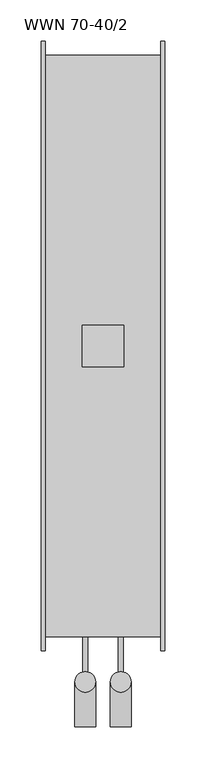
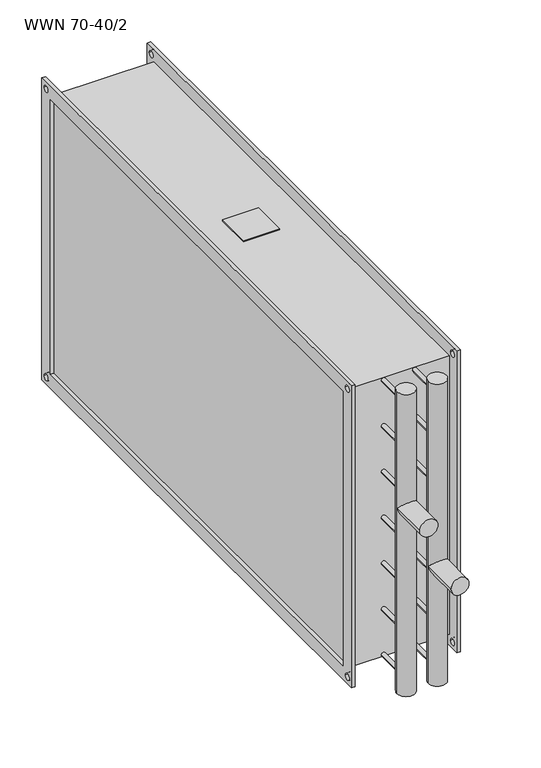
"""IFC4 building model written with IfcOpenShell, lengths in millimetres: proxy geometry, KORF_Нагреватель_Водяной_WWN : WWN 70-40/2."""

from ifc_helpers import new_model, si_unit, point, frame, frame_2d, origin, place, context, project, spatial, polyline, circle_curve, ellipse_curve, trimmed, segment, composite_curve, outline, extrude, source, transform, mapped, element, save
from ifc_brep_helpers import plane_surface, cylinder_surface, advanced_brep


def wwn_70_40_2_35d09b2a(model_context):
    return source(origin(), model_context, "Body", "SolidModel", [
        extrude(outline(polyline([(50.0, -25.0), (50.0, 25.0), (100.0, 25.0), (100.0, -25.0), (50.0, -25.0)])), frame((0.0, 0.0, 203.0), z_axis=(0.0, 0.0, 1.0), x_axis=(1.0, 0.0, 0.0)), (0.0, 0.0, 1.0), 2.0),
        extrude(outline(polyline([(-370.0, 220.0), (370.0, 220.0), (370.0, -220.0), (-370.0, -220.0), (-370.0, 220.0)]), holes=[polyline([(-350.0, 200.0), (-350.0, -200.0), (350.0, -200.0), (350.0, 200.0), (-350.0, 200.0)]), composite_curve([segment(trimmed(circle_curve(frame_2d((360.0, 210.0)), 4.5), [point((355.5, 210.0))], [point((364.5, 210.0))], True, "CARTESIAN"), True, "CONTINUOUS"), segment(trimmed(circle_curve(frame_2d((360.0, 210.0)), 4.5), [point((364.5, 210.0))], [point((355.5, 210.0))], True, "CARTESIAN"), True, "CONTINUOUS")], self_intersect=False), composite_curve([segment(trimmed(circle_curve(frame_2d((-360.0, 210.0)), 4.5), [point((-364.5, 210.0))], [point((-355.5, 210.0))], True, "CARTESIAN"), True, "CONTINUOUS"), segment(trimmed(circle_curve(frame_2d((-360.0, 210.0)), 4.5), [point((-355.5, 210.0))], [point((-364.5, 210.0))], True, "CARTESIAN"), True, "CONTINUOUS")], self_intersect=False), composite_curve([segment(trimmed(circle_curve(frame_2d((-360.0, -210.0)), 4.5), [point((-364.5, -210.0))], [point((-355.5, -210.0))], True, "CARTESIAN"), True, "CONTINUOUS"), segment(trimmed(circle_curve(frame_2d((-360.0, -210.0)), 4.5), [point((-355.5, -210.0))], [point((-364.5, -210.0))], True, "CARTESIAN"), True, "CONTINUOUS")], self_intersect=False), composite_curve([segment(trimmed(circle_curve(frame_2d((360.0, -210.0)), 4.5), [point((355.5, -210.0))], [point((364.5, -210.0))], True, "CARTESIAN"), True, "CONTINUOUS"), segment(trimmed(circle_curve(frame_2d((360.0, -210.0)), 4.5), [point((364.5, -210.0))], [point((355.5, -210.0))], True, "CARTESIAN"), True, "CONTINUOUS")], self_intersect=False)]), frame((145.0, 0.0, 0.0), z_axis=(1.0, 0.0, 0.0), x_axis=(0.0, 1.0, 0.0)), (0.0, 0.0, 1.0), 5.0),
        extrude(outline(polyline([(-370.0, 220.0), (370.0, 220.0), (370.0, -220.0), (-370.0, -220.0), (-370.0, 220.0)]), holes=[polyline([(-350.0, 200.0), (-350.0, -200.0), (350.0, -200.0), (350.0, 200.0), (-350.0, 200.0)]), composite_curve([segment(trimmed(circle_curve(frame_2d((360.0, 210.0)), 4.5), [point((355.5, 210.0))], [point((364.5, 210.0))], True, "CARTESIAN"), True, "CONTINUOUS"), segment(trimmed(circle_curve(frame_2d((360.0, 210.0)), 4.5), [point((364.5, 210.0))], [point((355.5, 210.0))], True, "CARTESIAN"), True, "CONTINUOUS")], self_intersect=False), composite_curve([segment(trimmed(circle_curve(frame_2d((-360.0, 210.0)), 4.5), [point((-364.5, 210.0))], [point((-355.5, 210.0))], True, "CARTESIAN"), True, "CONTINUOUS"), segment(trimmed(circle_curve(frame_2d((-360.0, 210.0)), 4.5), [point((-355.5, 210.0))], [point((-364.5, 210.0))], True, "CARTESIAN"), True, "CONTINUOUS")], self_intersect=False), composite_curve([segment(trimmed(circle_curve(frame_2d((-360.0, -210.0)), 4.5), [point((-364.5, -210.0))], [point((-355.5, -210.0))], True, "CARTESIAN"), True, "CONTINUOUS"), segment(trimmed(circle_curve(frame_2d((-360.0, -210.0)), 4.5), [point((-355.5, -210.0))], [point((-364.5, -210.0))], True, "CARTESIAN"), True, "CONTINUOUS")], self_intersect=False), composite_curve([segment(trimmed(circle_curve(frame_2d((360.0, -210.0)), 4.5), [point((355.5, -210.0))], [point((364.5, -210.0))], True, "CARTESIAN"), True, "CONTINUOUS"), segment(trimmed(circle_curve(frame_2d((360.0, -210.0)), 4.5), [point((364.5, -210.0))], [point((355.5, -210.0))], True, "CARTESIAN"), True, "CONTINUOUS")], self_intersect=False)]), frame((0.0, 0.0, 0.0), z_axis=(1.0, 0.0, 0.0), x_axis=(0.0, 1.0, 0.0)), (0.0, 0.0, 1.0), 5.0),
        extrude(outline(polyline([(145.0, 353.0), (145.0, -353.0), (5.0, -353.0), (5.0, 353.0), (145.0, 353.0)])), frame((0.0, 0.0, -203.0), z_axis=(0.0, 0.0, 1.0), x_axis=(1.0, 0.0, 0.0)), (0.0, 0.0, 1.0), 406.0),
        advanced_brep(
        [(41.0, -462.0, 50.0), (66.0, -462.0, 50.0), (41.0, -407.5, 50.0), (66.0, -407.5, 50.0), (41.0, -407.5, 220.0), (66.0, -407.5, 220.0), (41.0, -407.5, -220.0), (66.0, -407.5, -220.0)],
        [
            (0, 1, circle_curve(frame((53.5, -462.0, 50.0), z_axis=(0.0, -1.0, 0.0), x_axis=(1.0, 0.0, 0.0)), 12.5)),
            (1, 0, circle_curve(frame((53.5, -462.0, 50.0), z_axis=(0.0, -1.0, 0.0), x_axis=(1.0, 0.0, 0.0)), 12.5)),
            (0, 2),
            (2, 3, ellipse_curve(frame((53.5, -407.5, 50.0), z_axis=(0.0, -0.7071067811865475, 0.7071067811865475), x_axis=(0.0, -0.7071067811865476, -0.7071067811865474)), 17.6776695, 12.5)),
            (3, 1),
            (3, 2, ellipse_curve(frame((53.5, -407.5, 50.0), z_axis=(0.0, -0.7071067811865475, -0.7071067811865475), x_axis=(0.0, -0.7071067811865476, 0.7071067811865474)), 17.6776695, 12.5)),
            (4, 5, circle_curve(frame((53.5, -407.5, 220.0), z_axis=(0.0, 0.0, 1.0), x_axis=(1.0, 0.0, 0.0)), 12.5)),
            (5, 4, circle_curve(frame((53.5, -407.5, 220.0), z_axis=(0.0, 0.0, 1.0), x_axis=(1.0, 0.0, 0.0)), 12.5)),
            (6, 7, circle_curve(frame((53.5, -407.5, -220.0), z_axis=(0.0, 0.0, -1.0), x_axis=(1.0, 0.0, 0.0)), 12.5)),
            (7, 6, circle_curve(frame((53.5, -407.5, -220.0), z_axis=(0.0, 0.0, -1.0), x_axis=(1.0, 0.0, 0.0)), 12.5)),
            (4, 2),
            (3, 5),
            (7, 3),
            (2, 6),
        ],
        [
            plane_surface(frame((66.0, -462.0, 50.0), z_axis=(0.0, -1.0, 0.0), x_axis=(0.0, 0.0, 1.0))),
            cylinder_surface(frame((53.5, -407.5, 50.0), z_axis=(0.0, -1.0, 0.0), x_axis=(1.0, 0.0, 0.0)), 12.5),
            plane_surface(frame((66.0, -407.5, 220.0), z_axis=(0.0, 0.0, 1.0), x_axis=(0.0, 1.0, 0.0))),
            plane_surface(frame((66.0, -407.5, -220.0), z_axis=(0.0, 0.0, -1.0), x_axis=(0.0, -1.0, 0.0))),
            cylinder_surface(frame((53.5, -407.5, -220.0), z_axis=(0.0, 0.0, 1.0), x_axis=(1.0, 0.0, 0.0)), 12.5),
        ],
        [
            (0, [[1, 2]]),
            (1, [[-1, 3, 4, 5]]),
            (1, [[-2, -5, 6, -3]]),
            (2, [[7, 8]]),
            (3, [[9, 10]]),
            (4, [[-7, 11, -6, 12]]),
            (4, [[-10, 13, -4, 14]]),
            (4, [[-8, -12, -13, -9, -14, -11]]),
        ],
    ),
        advanced_brep(
        [(84.0, -462.0, -50.0), (109.0, -462.0, -50.0), (84.0, -407.5, -50.0), (109.0, -407.5, -50.0), (84.0, -407.5, 220.0), (109.0, -407.5, 220.0), (84.0, -407.5, -220.0), (109.0, -407.5, -220.0)],
        [
            (0, 1, circle_curve(frame((96.5, -462.0, -50.0), z_axis=(0.0, -1.0, 0.0), x_axis=(1.0, 0.0, 0.0)), 12.5)),
            (1, 0, circle_curve(frame((96.5, -462.0, -50.0), z_axis=(0.0, -1.0, 0.0), x_axis=(1.0, 0.0, 0.0)), 12.5)),
            (0, 2),
            (2, 3, ellipse_curve(frame((96.5, -407.5, -50.0), z_axis=(0.0, -0.7071067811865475, 0.7071067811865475), x_axis=(0.0, -0.7071067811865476, -0.7071067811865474)), 17.6776695, 12.5)),
            (3, 1),
            (3, 2, ellipse_curve(frame((96.5, -407.5, -50.0), z_axis=(0.0, -0.7071067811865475, -0.7071067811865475), x_axis=(0.0, -0.7071067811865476, 0.7071067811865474)), 17.6776695, 12.5)),
            (4, 5, circle_curve(frame((96.5, -407.5, 220.0), z_axis=(0.0, 0.0, 1.0), x_axis=(1.0, 0.0, 0.0)), 12.5)),
            (5, 4, circle_curve(frame((96.5, -407.5, 220.0), z_axis=(0.0, 0.0, 1.0), x_axis=(1.0, 0.0, 0.0)), 12.5)),
            (6, 7, circle_curve(frame((96.5, -407.5, -220.0), z_axis=(0.0, 0.0, -1.0), x_axis=(1.0, 0.0, 0.0)), 12.5)),
            (7, 6, circle_curve(frame((96.5, -407.5, -220.0), z_axis=(0.0, 0.0, -1.0), x_axis=(1.0, 0.0, 0.0)), 12.5)),
            (4, 2),
            (3, 5),
            (7, 3),
            (2, 6),
        ],
        [
            plane_surface(frame((66.0, -462.0, 50.0), z_axis=(0.0, -1.0, 0.0), x_axis=(0.0, 0.0, 1.0))),
            cylinder_surface(frame((96.5, 0.0, -50.0), z_axis=(0.0, -1.0, 0.0), x_axis=(1.0, 0.0, 0.0)), 12.5),
            plane_surface(frame((66.0, -407.5, 220.0), z_axis=(0.0, 0.0, 1.0), x_axis=(0.0, 1.0, 0.0))),
            plane_surface(frame((66.0, -407.5, -220.0), z_axis=(0.0, 0.0, -1.0), x_axis=(0.0, -1.0, 0.0))),
            cylinder_surface(frame((96.5, -407.5, 0.0), z_axis=(0.0, 0.0, 1.0), x_axis=(1.0, 0.0, 0.0)), 12.5),
        ],
        [
            (0, [[1, 2]]),
            (1, [[-1, 3, 4, 5]]),
            (1, [[-2, -5, 6, -3]]),
            (2, [[7, 8]]),
            (3, [[9, 10]]),
            (4, [[-7, 11, -6, 12]]),
            (4, [[-10, 13, -4, 14]]),
            (4, [[-8, -12, -13, -9, -14, -11]]),
        ],
    ),
        extrude(outline(composite_curve([segment(trimmed(circle_curve(frame_2d((200.0, 53.5)), 3.0), [point((200.0, 50.5))], [point((200.0, 56.5))], False, "CARTESIAN"), True, "CONTINUOUS"), segment(trimmed(circle_curve(frame_2d((200.0, 53.5)), 3.0), [point((200.0, 56.5))], [point((200.0, 50.5))], False, "CARTESIAN"), True, "CONTINUOUS")], self_intersect=False)), frame((0.0, -407.5, 0.0), z_axis=(0.0, 1.0, 0.0), x_axis=(0.0, 0.0, 1.0)), (0.0, 0.0, 1.0), 54.5),
        extrude(outline(composite_curve([segment(trimmed(circle_curve(frame_2d((133.3333333, 53.5)), 3.0), [point((133.3333333, 50.5))], [point((133.3333333, 56.5))], False, "CARTESIAN"), True, "CONTINUOUS"), segment(trimmed(circle_curve(frame_2d((133.3333333, 53.5)), 3.0), [point((133.3333333, 56.5))], [point((133.3333333, 50.5))], False, "CARTESIAN"), True, "CONTINUOUS")], self_intersect=False)), frame((0.0, -407.5, 0.0), z_axis=(0.0, 1.0, 0.0), x_axis=(0.0, 0.0, 1.0)), (0.0, 0.0, 1.0), 54.5),
        extrude(outline(composite_curve([segment(trimmed(circle_curve(frame_2d((66.6666667, 53.5)), 3.0), [point((66.6666667, 50.5))], [point((66.6666667, 56.5))], False, "CARTESIAN"), True, "CONTINUOUS"), segment(trimmed(circle_curve(frame_2d((66.6666667, 53.5)), 3.0), [point((66.6666667, 56.5))], [point((66.6666667, 50.5))], False, "CARTESIAN"), True, "CONTINUOUS")], self_intersect=False)), frame((0.0, -407.5, 0.0), z_axis=(0.0, 1.0, 0.0), x_axis=(0.0, 0.0, 1.0)), (0.0, 0.0, 1.0), 54.5),
        extrude(outline(composite_curve([segment(trimmed(circle_curve(frame_2d((0.0, 53.5)), 3.0), [point((0.0, 50.5))], [point((0.0, 56.5))], False, "CARTESIAN"), True, "CONTINUOUS"), segment(trimmed(circle_curve(frame_2d((0.0, 53.5)), 3.0), [point((0.0, 56.5))], [point((0.0, 50.5))], False, "CARTESIAN"), True, "CONTINUOUS")], self_intersect=False)), frame((0.0, -407.5, 0.0), z_axis=(0.0, 1.0, 0.0), x_axis=(0.0, 0.0, 1.0)), (0.0, 0.0, 1.0), 54.5),
        extrude(outline(composite_curve([segment(trimmed(circle_curve(frame_2d((-66.6666667, 53.5)), 3.0), [point((-66.6666667, 50.5))], [point((-66.6666667, 56.5))], False, "CARTESIAN"), True, "CONTINUOUS"), segment(trimmed(circle_curve(frame_2d((-66.6666667, 53.5)), 3.0), [point((-66.6666667, 56.5))], [point((-66.6666667, 50.5))], False, "CARTESIAN"), True, "CONTINUOUS")], self_intersect=False)), frame((0.0, -407.5, 0.0), z_axis=(0.0, 1.0, 0.0), x_axis=(0.0, 0.0, 1.0)), (0.0, 0.0, 1.0), 54.5),
        extrude(outline(composite_curve([segment(trimmed(circle_curve(frame_2d((-133.3333333, 53.5)), 3.0), [point((-133.3333333, 50.5))], [point((-133.3333333, 56.5))], False, "CARTESIAN"), True, "CONTINUOUS"), segment(trimmed(circle_curve(frame_2d((-133.3333333, 53.5)), 3.0), [point((-133.3333333, 56.5))], [point((-133.3333333, 50.5))], False, "CARTESIAN"), True, "CONTINUOUS")], self_intersect=False)), frame((0.0, -407.5, 0.0), z_axis=(0.0, 1.0, 0.0), x_axis=(0.0, 0.0, 1.0)), (0.0, 0.0, 1.0), 54.5),
        extrude(outline(composite_curve([segment(trimmed(circle_curve(frame_2d((-133.3333333, 96.5)), 3.0), [point((-133.3333333, 93.5))], [point((-133.3333333, 99.5))], False, "CARTESIAN"), True, "CONTINUOUS"), segment(trimmed(circle_curve(frame_2d((-133.3333333, 96.5)), 3.0), [point((-133.3333333, 99.5))], [point((-133.3333333, 93.5))], False, "CARTESIAN"), True, "CONTINUOUS")], self_intersect=False)), frame((0.0, -407.5, 0.0), z_axis=(0.0, 1.0, 0.0), x_axis=(0.0, 0.0, 1.0)), (0.0, 0.0, 1.0), 54.5),
        extrude(outline(composite_curve([segment(trimmed(circle_curve(frame_2d((-66.6666667, 96.5)), 3.0), [point((-66.6666667, 93.5))], [point((-66.6666667, 99.5))], False, "CARTESIAN"), True, "CONTINUOUS"), segment(trimmed(circle_curve(frame_2d((-66.6666667, 96.5)), 3.0), [point((-66.6666667, 99.5))], [point((-66.6666667, 93.5))], False, "CARTESIAN"), True, "CONTINUOUS")], self_intersect=False)), frame((0.0, -407.5, 0.0), z_axis=(0.0, 1.0, 0.0), x_axis=(0.0, 0.0, 1.0)), (0.0, 0.0, 1.0), 54.5),
        extrude(outline(composite_curve([segment(trimmed(circle_curve(frame_2d((0.0, 96.5)), 3.0), [point((0.0, 93.5))], [point((0.0, 99.5))], False, "CARTESIAN"), True, "CONTINUOUS"), segment(trimmed(circle_curve(frame_2d((0.0, 96.5)), 3.0), [point((0.0, 99.5))], [point((0.0, 93.5))], False, "CARTESIAN"), True, "CONTINUOUS")], self_intersect=False)), frame((0.0, -407.5, 0.0), z_axis=(0.0, 1.0, 0.0), x_axis=(0.0, 0.0, 1.0)), (0.0, 0.0, 1.0), 54.5),
        extrude(outline(composite_curve([segment(trimmed(circle_curve(frame_2d((66.6666667, 96.5)), 3.0), [point((66.6666667, 93.5))], [point((66.6666667, 99.5))], False, "CARTESIAN"), True, "CONTINUOUS"), segment(trimmed(circle_curve(frame_2d((66.6666667, 96.5)), 3.0), [point((66.6666667, 99.5))], [point((66.6666667, 93.5))], False, "CARTESIAN"), True, "CONTINUOUS")], self_intersect=False)), frame((0.0, -407.5, 0.0), z_axis=(0.0, 1.0, 0.0), x_axis=(0.0, 0.0, 1.0)), (0.0, 0.0, 1.0), 54.5),
        extrude(outline(composite_curve([segment(trimmed(circle_curve(frame_2d((133.3333333, 96.5)), 3.0), [point((133.3333333, 93.5))], [point((133.3333333, 99.5))], False, "CARTESIAN"), True, "CONTINUOUS"), segment(trimmed(circle_curve(frame_2d((133.3333333, 96.5)), 3.0), [point((133.3333333, 99.5))], [point((133.3333333, 93.5))], False, "CARTESIAN"), True, "CONTINUOUS")], self_intersect=False)), frame((0.0, -407.5, 0.0), z_axis=(0.0, 1.0, 0.0), x_axis=(0.0, 0.0, 1.0)), (0.0, 0.0, 1.0), 54.5),
        extrude(outline(composite_curve([segment(trimmed(circle_curve(frame_2d((200.0, 96.5)), 3.0), [point((200.0, 93.5))], [point((200.0, 99.5))], False, "CARTESIAN"), True, "CONTINUOUS"), segment(trimmed(circle_curve(frame_2d((200.0, 96.5)), 3.0), [point((200.0, 99.5))], [point((200.0, 93.5))], False, "CARTESIAN"), True, "CONTINUOUS")], self_intersect=False)), frame((0.0, -407.5, 0.0), z_axis=(0.0, 1.0, 0.0), x_axis=(0.0, 0.0, 1.0)), (0.0, 0.0, 1.0), 54.5),
        extrude(outline(composite_curve([segment(trimmed(circle_curve(frame_2d((-200.0, 53.5)), 3.0), [point((-200.0, 50.5))], [point((-200.0, 56.5))], False, "CARTESIAN"), True, "CONTINUOUS"), segment(trimmed(circle_curve(frame_2d((-200.0, 53.5)), 3.0), [point((-200.0, 56.5))], [point((-200.0, 50.5))], False, "CARTESIAN"), True, "CONTINUOUS")], self_intersect=False)), frame((0.0, -407.5, 0.0), z_axis=(0.0, 1.0, 0.0), x_axis=(0.0, 0.0, 1.0)), (0.0, 0.0, 1.0), 54.5),
        extrude(outline(composite_curve([segment(trimmed(circle_curve(frame_2d((-200.0, 96.5)), 3.0), [point((-200.0, 93.5))], [point((-200.0, 99.5))], False, "CARTESIAN"), True, "CONTINUOUS"), segment(trimmed(circle_curve(frame_2d((-200.0, 96.5)), 3.0), [point((-200.0, 99.5))], [point((-200.0, 93.5))], False, "CARTESIAN"), True, "CONTINUOUS")], self_intersect=False)), frame((0.0, -407.5, 0.0), z_axis=(0.0, 1.0, 0.0), x_axis=(0.0, 0.0, 1.0)), (0.0, 0.0, 1.0), 54.5),
    ])


if __name__ == "__main__":
    model = new_model("IFC4")
    model_context = context("Model", 3, world=origin())
    ifc_project = project(units=[si_unit("LENGTHUNIT", "METRE", prefix="MILLI")], contexts=[model_context])
    site = spatial("IfcSite", under=ifc_project)
    building = spatial("IfcBuilding", under=site)
    placement = place(None, origin())
    wwn_70_40_2_shape = wwn_70_40_2_35d09b2a(model_context)
    element("IfcBuildingElementProxy", 1, Name="KORF_Нагреватель_Водяной_WWN : WWN 70-40/2", ObjectType="KORF_Нагреватель_Водяной_WWN : WWN 70-40/2", at=placement, inside=building, context=model_context, shape_type="MappedRepresentation", body=[
        mapped(wwn_70_40_2_shape, transform((0.0, 0.0, 0.0), x_axis=(1.0, 0.0, 0.0), y_axis=(0.0, 1.0, 0.0), z_axis=(0.0, 0.0, 1.0))),
    ])
    save(model, "model.ifc")
